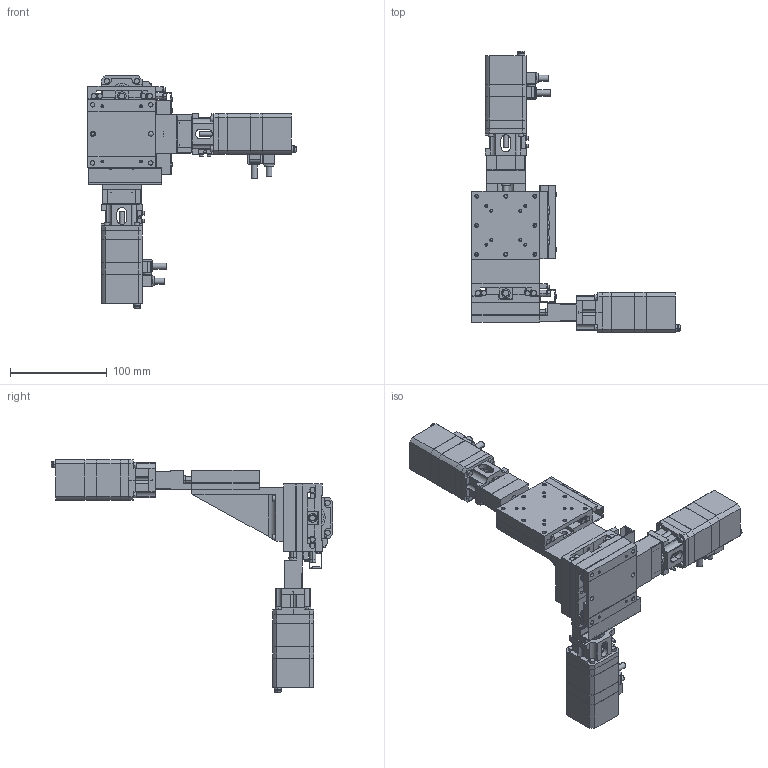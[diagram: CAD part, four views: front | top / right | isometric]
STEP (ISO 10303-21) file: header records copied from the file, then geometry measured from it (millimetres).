
FILE_DESCRIPTION(('STEP AP203'),'1');
FILE_NAME('C:/3D-Trans/3D_PMZG715T-R□-MA4+240129.step','2024-03-14T08:16:10',(' '),(' '),'Spatial InterOp 3D',' ',' ');
FILE_SCHEMA(('CONFIG_CONTROL_DESIGN'));
Length unit declared in the file: millimetre
Products named in the file (19): 1; 2; 3; 4; 5; 6; 7; 8; 9; 10; 11; 12; 13; 14; 15; 16; 17; 18; 19
Bounding box: 215 x 291 x 240 mm (x, y, z)
Volume: 853556.4 mm3; surface area: 253978.5 mm2
Topology: 19 solids, 19 shells, 2187 faces, 5573 edges, 3501 vertices
Faces by surface type: plane 1132, cylinder 759, cone 284, torus 12
Entity records: 67168 total; most frequent: CARTESIAN_POINT 12081, DIRECTION 11713, ORIENTED_EDGE 10978, EDGE_CURVE 5489, AXIS2_PLACEMENT_3D 4062, LINE 3589, VECTOR 3589, VERTEX_POINT 3501
